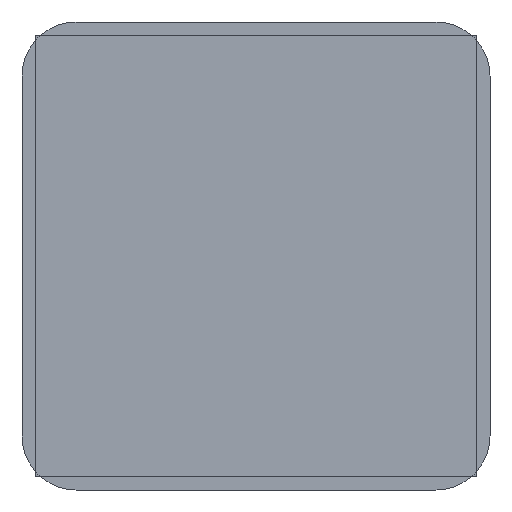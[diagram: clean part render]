
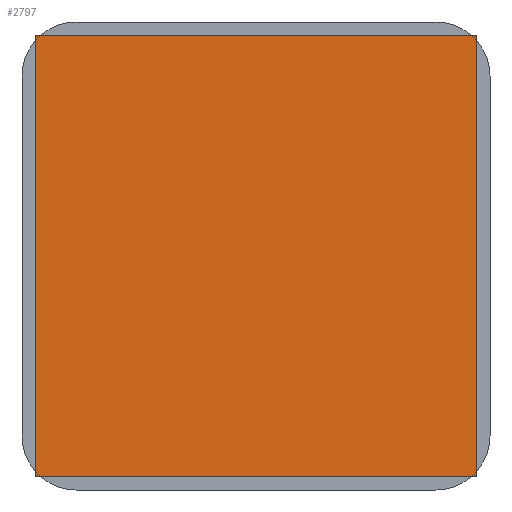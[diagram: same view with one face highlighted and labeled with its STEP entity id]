
A CAD part, front view. The second image highlights one B-rep face of the part: STEP entity #2797.
In plain terms, the highlighted planar face has unit normal (0, -1, 0).
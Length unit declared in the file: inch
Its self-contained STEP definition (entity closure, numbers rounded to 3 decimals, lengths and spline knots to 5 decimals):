
#133 = LINE ( 'NONE', #541, #4304 ) ;
#357 = DIRECTION ( 'NONE',  ( 1., 0., 0. ) ) ;
#428 = ORIENTED_EDGE ( 'NONE', *, *, #4262, .T. ) ;
#541 = CARTESIAN_POINT ( 'NONE',  ( 0.5315, -0.005, 0.5315 ) ) ;
#611 = DIRECTION ( 'NONE',  ( 0., -1., 0. ) ) ;
#723 = ORIENTED_EDGE ( 'NONE', *, *, #3942, .T. ) ;
#1068 = VERTEX_POINT ( 'NONE', #1396 ) ;
#1323 = DIRECTION ( 'NONE',  ( 0., 0., -1. ) ) ;
#1396 = CARTESIAN_POINT ( 'NONE',  ( 0.5315, -0.005, 0.5315 ) ) ;
#1411 = VERTEX_POINT ( 'NONE', #1546 ) ;
#1526 = AXIS2_PLACEMENT_3D ( 'NONE', #2941, #611, #4373 ) ;
#1546 = CARTESIAN_POINT ( 'NONE',  ( 0.5315, -0.005, -0.5315 ) ) ;
#1628 = VECTOR ( 'NONE', #2372, 39.37008 ) ;
#1696 = ORIENTED_EDGE ( 'NONE', *, *, #3144, .T. ) ;
#1723 = CARTESIAN_POINT ( 'NONE',  ( -0.5315, -0.005, -0.5315 ) ) ;
#2127 = LINE ( 'NONE', #1723, #3821 ) ;
#2218 = CARTESIAN_POINT ( 'NONE',  ( -0.5315, -0.005, 0.5315 ) ) ;
#2372 = DIRECTION ( 'NONE',  ( 0., 0., 1. ) ) ;
#2431 = DIRECTION ( 'NONE',  ( -1., 0., 0. ) ) ;
#2479 = FACE_OUTER_BOUND ( 'NONE', #3155, .T. ) ;
#2631 = LINE ( 'NONE', #3392, #3091 ) ;
#2797 = ADVANCED_FACE ( 'NONE', ( #2479 ), #4428, .T. ) ;
#2941 = CARTESIAN_POINT ( 'NONE',  ( 0.5315, -0.005, 0.5315 ) ) ;
#3091 = VECTOR ( 'NONE', #357, 39.37008 ) ;
#3144 = EDGE_CURVE ( 'NONE', #1411, #1068, #4207, .T. ) ;
#3155 = EDGE_LOOP ( 'NONE', ( #1696, #428, #4070, #723 ) ) ;
#3392 = CARTESIAN_POINT ( 'NONE',  ( 0.5315, -0.005, -0.5315 ) ) ;
#3666 = CARTESIAN_POINT ( 'NONE',  ( -0.5315, -0.005, -0.5315 ) ) ;
#3764 = VERTEX_POINT ( 'NONE', #2218 ) ;
#3821 = VECTOR ( 'NONE', #1323, 39.37008 ) ;
#3854 = CARTESIAN_POINT ( 'NONE',  ( 0.5315, -0.005, -0.5315 ) ) ;
#3942 = EDGE_CURVE ( 'NONE', #4242, #1411, #2631, .T. ) ;
#4070 = ORIENTED_EDGE ( 'NONE', *, *, #4602, .T. ) ;
#4207 = LINE ( 'NONE', #3854, #1628 ) ;
#4242 = VERTEX_POINT ( 'NONE', #3666 ) ;
#4262 = EDGE_CURVE ( 'NONE', #1068, #3764, #133, .T. ) ;
#4304 = VECTOR ( 'NONE', #2431, 39.37008 ) ;
#4373 = DIRECTION ( 'NONE',  ( 0., 0., 1. ) ) ;
#4428 = PLANE ( 'NONE',  #1526 ) ;
#4602 = EDGE_CURVE ( 'NONE', #3764, #4242, #2127, .T. ) ;
